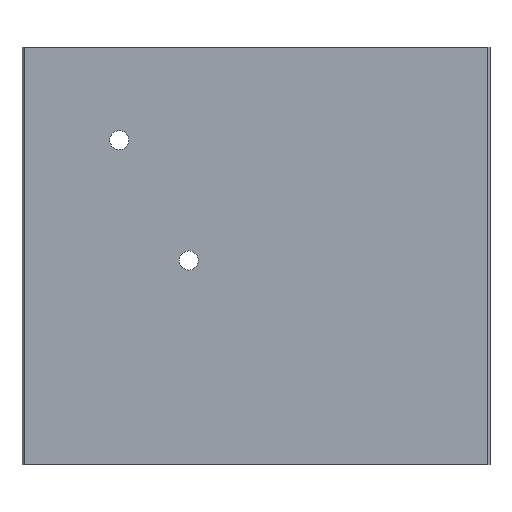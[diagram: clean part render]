
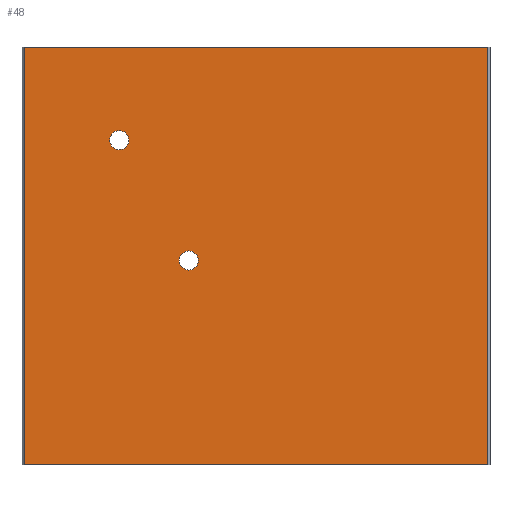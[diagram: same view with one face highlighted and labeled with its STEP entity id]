
A CAD part, left-side view. The second image highlights one B-rep face of the part: STEP entity #48.
In plain terms, the highlighted planar face has unit normal (-1, 0, 0).
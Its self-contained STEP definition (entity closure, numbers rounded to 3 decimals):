
#48=ADVANCED_FACE('',(#336,#338,#340),#342,.T.);
#336=FACE_BOUND('',#337,.T.);
#337=EDGE_LOOP('',(#612,#613,#614,#615));
#338=FACE_BOUND('',#339,.T.);
#339=EDGE_LOOP('',(#616));
#340=FACE_BOUND('',#341,.T.);
#341=EDGE_LOOP('',(#617));
#342=PLANE('',#343);
#343=AXIS2_PLACEMENT_3D('',#344,#345,#346);
#344=CARTESIAN_POINT('',(0.,0.,0.));
#345=DIRECTION('',(-1.,0.,0.));
#346=DIRECTION('',(0.,0.,-1.));
#612=ORIENTED_EDGE('',*,*,#708,.T.);
#613=ORIENTED_EDGE('',*,*,#709,.T.);
#614=ORIENTED_EDGE('',*,*,#710,.T.);
#615=ORIENTED_EDGE('',*,*,#711,.T.);
#616=ORIENTED_EDGE('',*,*,#712,.T.);
#617=ORIENTED_EDGE('',*,*,#713,.T.);
#708=EDGE_CURVE('',#756,#757,#758,.T.);
#709=EDGE_CURVE('',#757,#759,#760,.T.);
#710=EDGE_CURVE('',#759,#761,#762,.T.);
#711=EDGE_CURVE('',#761,#756,#763,.T.);
#712=EDGE_CURVE('',#764,#764,#765,.F.);
#713=EDGE_CURVE('',#766,#766,#767,.F.);
#756=VERTEX_POINT('',#844);
#757=VERTEX_POINT('',#845);
#758=LINE('',#846,#847);
#759=VERTEX_POINT('',#849);
#760=LINE('',#850,#851);
#761=VERTEX_POINT('',#853);
#762=LINE('',#854,#855);
#763=LINE('',#857,#858);
#764=VERTEX_POINT('',#860);
#765=CIRCLE('',#861,2.067);
#766=VERTEX_POINT('',#865);
#767=CIRCLE('',#866,2.067);
#844=CARTESIAN_POINT('',(0.,-50.5,-45.));
#845=CARTESIAN_POINT('',(0.,-50.5,45.));
#846=CARTESIAN_POINT('',(0.,-50.5,-45.));
#847=VECTOR('',#848,1.);
#848=DIRECTION('',(0.,0.,1.));
#849=CARTESIAN_POINT('',(0.,49.5,45.));
#850=CARTESIAN_POINT('',(0.,-50.5,45.));
#851=VECTOR('',#852,1.);
#852=DIRECTION('',(0.,1.,0.));
#853=CARTESIAN_POINT('',(0.,49.5,-45.));
#854=CARTESIAN_POINT('',(0.,49.5,45.));
#855=VECTOR('',#856,1.);
#856=DIRECTION('',(0.,0.,-1.));
#857=CARTESIAN_POINT('',(0.,49.5,-45.));
#858=VECTOR('',#859,1.);
#859=DIRECTION('',(0.,-1.,0.));
#860=CARTESIAN_POINT('',(0.,29.,22.933));
#861=AXIS2_PLACEMENT_3D('',#862,#863,#864);
#862=CARTESIAN_POINT('',(0.,29.,25.));
#863=DIRECTION('',(-1.,0.,0.));
#864=DIRECTION('',(0.,0.,-1.));
#865=CARTESIAN_POINT('',(0.,14.,-3.048));
#866=AXIS2_PLACEMENT_3D('',#867,#868,#869);
#867=CARTESIAN_POINT('',(0.,14.,-0.981));
#868=DIRECTION('',(-1.,0.,0.));
#869=DIRECTION('',(0.,0.,-1.));
